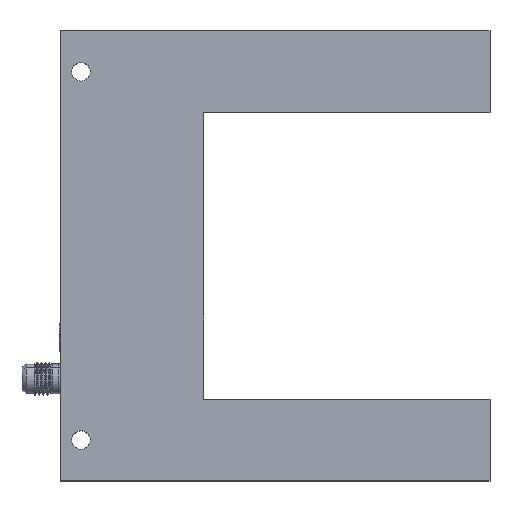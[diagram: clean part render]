
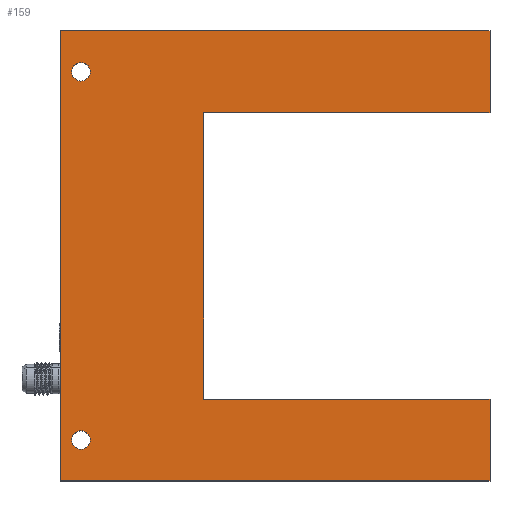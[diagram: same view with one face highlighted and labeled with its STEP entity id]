
A CAD part, top view. The second image highlights one B-rep face of the part: STEP entity #159.
In plain terms, the highlighted planar face has unit normal (0, 0, 1).
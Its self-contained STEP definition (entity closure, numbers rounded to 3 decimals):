
#159=ADVANCED_FACE('',(#373,#374,#375),#376,.F.);
#373=FACE_BOUND('',#1348,.T.);
#374=FACE_OUTER_BOUND('',#1349,.T.);
#375=FACE_BOUND('',#1350,.T.);
#376=PLANE('',#1351);
#1348=EDGE_LOOP('',(#2443,#2444));
#1349=EDGE_LOOP('',(#2445,#2446,#2447,#2448,#2449,#2450,#2451,#2452,#2453,#2454,#2455,#2456));
#1350=EDGE_LOOP('',(#2457,#2458));
#1351=AXIS2_PLACEMENT_3D('',#2459,#2460,#2461);
#2443=ORIENTED_EDGE('',*,*,#3117,.T.);
#2444=ORIENTED_EDGE('',*,*,#3118,.T.);
#2445=ORIENTED_EDGE('',*,*,#3119,.T.);
#2446=ORIENTED_EDGE('',*,*,#3120,.T.);
#2447=ORIENTED_EDGE('',*,*,#3121,.T.);
#2448=ORIENTED_EDGE('',*,*,#3005,.T.);
#2449=ORIENTED_EDGE('',*,*,#3122,.T.);
#2450=ORIENTED_EDGE('',*,*,#3123,.T.);
#2451=ORIENTED_EDGE('',*,*,#3039,.T.);
#2452=ORIENTED_EDGE('',*,*,#3124,.T.);
#2453=ORIENTED_EDGE('',*,*,#3125,.T.);
#2454=ORIENTED_EDGE('',*,*,#3126,.T.);
#2455=ORIENTED_EDGE('',*,*,#3060,.T.);
#2456=ORIENTED_EDGE('',*,*,#3034,.T.);
#2457=ORIENTED_EDGE('',*,*,#3127,.T.);
#2458=ORIENTED_EDGE('',*,*,#3128,.T.);
#2459=CARTESIAN_POINT('',(35.0,-45.0,10.0));
#2460=DIRECTION('',(0.0,0.,-1.0));
#2461=DIRECTION('',(1.0,0.0,0.0));
#3005=EDGE_CURVE('',#3297,#3302,#3304,.T.);
#3034=EDGE_CURVE('',#3355,#3353,#3356,.T.);
#3039=EDGE_CURVE('',#3364,#3361,#3365,.T.);
#3060=EDGE_CURVE('',#3397,#3355,#3398,.T.);
#3117=EDGE_CURVE('',#3491,#3492,#3493,.T.);
#3118=EDGE_CURVE('',#3492,#3491,#3494,.T.);
#3119=EDGE_CURVE('',#3353,#3495,#3496,.T.);
#3120=EDGE_CURVE('',#3495,#3497,#3498,.T.);
#3121=EDGE_CURVE('',#3497,#3297,#3499,.T.);
#3122=EDGE_CURVE('',#3302,#3500,#3501,.T.);
#3123=EDGE_CURVE('',#3500,#3364,#3502,.T.);
#3124=EDGE_CURVE('',#3361,#3503,#3504,.T.);
#3125=EDGE_CURVE('',#3503,#3505,#3506,.T.);
#3126=EDGE_CURVE('',#3505,#3397,#3507,.T.);
#3127=EDGE_CURVE('',#3508,#3509,#3510,.T.);
#3128=EDGE_CURVE('',#3509,#3508,#3511,.T.);
#3297=VERTEX_POINT('',#3727);
#3302=VERTEX_POINT('',#3734);
#3304=LINE('',#3737,#3738);
#3353=VERTEX_POINT('',#3879);
#3355=VERTEX_POINT('',#3882);
#3356=LINE('',#3883,#3884);
#3361=VERTEX_POINT('',#3891);
#3364=VERTEX_POINT('',#3895);
#3365=LINE('',#3896,#3897);
#3397=VERTEX_POINT('',#3982);
#3398=LINE('',#3983,#3984);
#3491=VERTEX_POINT('',#4367);
#3492=VERTEX_POINT('',#4368);
#3493=CIRCLE('',#4369,2.25);
#3494=CIRCLE('',#4370,2.25);
#3495=VERTEX_POINT('',#4371);
#3496=LINE('',#4372,#4373);
#3497=VERTEX_POINT('',#4374);
#3498=LINE('',#4375,#4376);
#3499=LINE('',#4377,#4378);
#3500=VERTEX_POINT('',#4379);
#3501=LINE('',#4380,#4381);
#3502=LINE('',#4382,#4383);
#3503=VERTEX_POINT('',#4384);
#3504=LINE('',#4385,#4386);
#3505=VERTEX_POINT('',#4387);
#3506=LINE('',#4388,#4389);
#3507=LINE('',#4390,#4391);
#3508=VERTEX_POINT('',#4392);
#3509=VERTEX_POINT('',#4393);
#3510=CIRCLE('',#4394,2.25);
#3511=CIRCLE('',#4395,2.25);
#3727=CARTESIAN_POINT('',(87.5,35.0,10.));
#3734=CARTESIAN_POINT('',(87.5,55.0,10.0));
#3737=CARTESIAN_POINT('',(87.5,45.0,10.));
#3738=VECTOR('',#4919,1.);
#3879=CARTESIAN_POINT('',(87.5,-35.0,10.0));
#3882=CARTESIAN_POINT('',(87.5,-55.0,10.0));
#3883=CARTESIAN_POINT('',(87.5,-45.0,10.0));
#3884=VECTOR('',#4949,1.0);
#3891=CARTESIAN_POINT('',(-17.485,40.0,10.0));
#3895=CARTESIAN_POINT('',(-17.5,40.0,10.0));
#3896=CARTESIAN_POINT('',(17.5,40.0,10.));
#3897=VECTOR('',#4953,1.0);
#3982=CARTESIAN_POINT('',(-17.5,-55.0,10.0));
#3983=CARTESIAN_POINT('',(35.0,-55.0,10.0));
#3984=VECTOR('',#4975,1.0);
#4367=CARTESIAN_POINT('',(-10.25,45.0,10.0));
#4368=CARTESIAN_POINT('',(-14.75,45.0,10.));
#4369=AXIS2_PLACEMENT_3D('',#5026,#5027,#5028);
#4370=AXIS2_PLACEMENT_3D('',#5029,#5030,#5031);
#4371=CARTESIAN_POINT('',(17.515,-35.0,10.0));
#4372=CARTESIAN_POINT('',(35.0,-35.0,10.0));
#4373=VECTOR('',#5032,1.0);
#4374=CARTESIAN_POINT('',(17.515,35.0,10.0));
#4375=CARTESIAN_POINT('',(17.515,0.,10.0));
#4376=VECTOR('',#5033,1.);
#4377=CARTESIAN_POINT('',(35.0,35.0,10.0));
#4378=VECTOR('',#5034,1.0);
#4379=CARTESIAN_POINT('',(-17.5,55.0,10.0));
#4380=CARTESIAN_POINT('',(35.0,55.0,10.));
#4381=VECTOR('',#5035,1.0);
#4382=CARTESIAN_POINT('',(-17.5,45.0,10.0));
#4383=VECTOR('',#5036,1.);
#4384=CARTESIAN_POINT('',(-17.485,-40.0,10.0));
#4385=CARTESIAN_POINT('',(-17.485,0.,10.0));
#4386=VECTOR('',#5037,1.);
#4387=CARTESIAN_POINT('',(-17.5,-40.0,10.0));
#4388=CARTESIAN_POINT('',(17.5,-40.0,10.0));
#4389=VECTOR('',#5038,1.0);
#4390=CARTESIAN_POINT('',(-17.5,-45.0,10.0));
#4391=VECTOR('',#5039,1.0);
#4392=CARTESIAN_POINT('',(-10.25,-45.0,10.0));
#4393=CARTESIAN_POINT('',(-14.75,-45.0,10.0));
#4394=AXIS2_PLACEMENT_3D('',#5040,#5041,#5042);
#4395=AXIS2_PLACEMENT_3D('',#5043,#5044,#5045);
#4919=DIRECTION('',(0.,1.0,0.));
#4949=DIRECTION('',(0.0,1.0,0.));
#4953=DIRECTION('',(1.0,0.,0.));
#4975=DIRECTION('',(1.0,0.0,0.0));
#5026=CARTESIAN_POINT('',(-12.5,45.0,10.0));
#5027=DIRECTION('',(0.,0.,-1.0));
#5028=DIRECTION('',(1.0,0.,0.));
#5029=CARTESIAN_POINT('',(-12.5,45.0,10.0));
#5030=DIRECTION('',(0.,0.,-1.0));
#5031=DIRECTION('',(1.0,0.,0.));
#5032=DIRECTION('',(-1.0,-0.0,0.0));
#5033=DIRECTION('',(0.,1.0,0.));
#5034=DIRECTION('',(1.0,0.,0.));
#5035=DIRECTION('',(-1.0,0.,0.));
#5036=DIRECTION('',(0.,-1.0,0.));
#5037=DIRECTION('',(0.,-1.0,0.));
#5038=DIRECTION('',(-1.0,-0.0,0.0));
#5039=DIRECTION('',(0.0,-1.0,0.));
#5040=CARTESIAN_POINT('',(-12.5,-45.0,10.0));
#5041=DIRECTION('',(0.0,0.,-1.0));
#5042=DIRECTION('',(1.0,0.0,0.0));
#5043=CARTESIAN_POINT('',(-12.5,-45.0,10.0));
#5044=DIRECTION('',(0.0,0.,-1.0));
#5045=DIRECTION('',(1.0,0.0,0.0));
